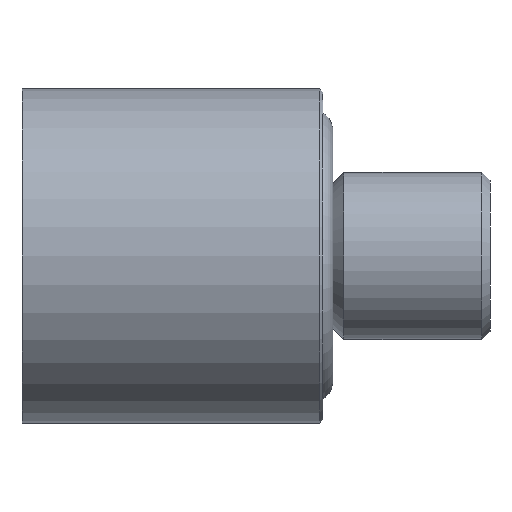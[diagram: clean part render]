
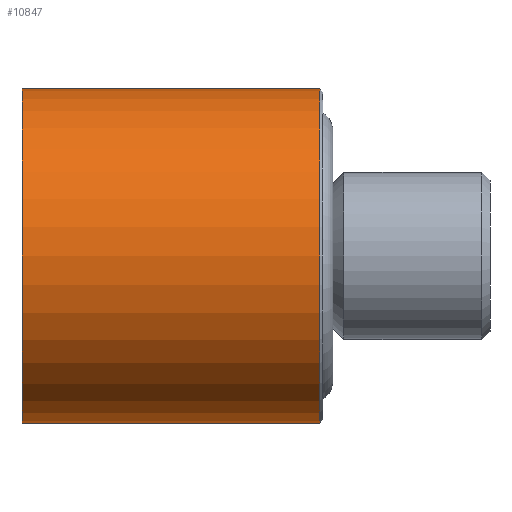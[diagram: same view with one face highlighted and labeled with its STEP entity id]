
A CAD part, left-side view. The second image highlights one B-rep face of the part: STEP entity #10847.
In plain terms, the highlighted cylindrical face has radius 10 mm (diameter 20 mm), a partial arc.
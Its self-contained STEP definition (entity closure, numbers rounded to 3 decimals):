
#763 = VERTEX_POINT ( 'NONE', #21763 ) ;
#1343 = ORIENTED_EDGE ( 'NONE', *, *, #13487, .F. ) ;
#1702 = AXIS2_PLACEMENT_3D ( 'NONE', #10851, #23638, #10659 ) ;
#3516 = DIRECTION ( 'NONE',  ( 0., 1., 0. ) ) ;
#4168 = EDGE_LOOP ( 'NONE', ( #16739, #1343, #23401, #12400 ) ) ;
#4882 = CARTESIAN_POINT ( 'NONE',  ( 0., 0., -10. ) ) ;
#6209 = EDGE_CURVE ( 'NONE', #763, #23693, #16365, .T. ) ;
#7497 = LINE ( 'NONE', #23189, #21931 ) ;
#7518 = DIRECTION ( 'NONE',  ( 0., 1., 0. ) ) ;
#9097 = DIRECTION ( 'NONE',  ( 0., 1., 0. ) ) ;
#9475 = DIRECTION ( 'NONE',  ( 0., 0., -1. ) ) ;
#10191 = CARTESIAN_POINT ( 'NONE',  ( 0., 18., 10. ) ) ;
#10659 = DIRECTION ( 'NONE',  ( 0., 0., 1. ) ) ;
#10847 = ADVANCED_FACE ( 'NONE', ( #25903 ), #13102, .T. ) ;
#10851 = CARTESIAN_POINT ( 'NONE',  ( 0., 0.2, 0. ) ) ;
#10906 = VERTEX_POINT ( 'NONE', #10191 ) ;
#12124 = AXIS2_PLACEMENT_3D ( 'NONE', #27314, #3516, #20816 ) ;
#12332 = CIRCLE ( 'NONE', #24925, 10. ) ;
#12400 = ORIENTED_EDGE ( 'NONE', *, *, #12538, .F. ) ;
#12538 = EDGE_CURVE ( 'NONE', #23693, #10906, #12332, .T. ) ;
#13102 = CYLINDRICAL_SURFACE ( 'NONE', #12124, 10. ) ;
#13487 = EDGE_CURVE ( 'NONE', #21383, #763, #18631, .T. ) ;
#16365 = LINE ( 'NONE', #4882, #27147 ) ;
#16739 = ORIENTED_EDGE ( 'NONE', *, *, #6209, .F. ) ;
#18486 = DIRECTION ( 'NONE',  ( 0., 1., 0. ) ) ;
#18631 = CIRCLE ( 'NONE', #1702, 10. ) ;
#18829 = CARTESIAN_POINT ( 'NONE',  ( 0., 0.2, 10. ) ) ;
#20471 = CARTESIAN_POINT ( 'NONE',  ( 0., 18., 0. ) ) ;
#20816 = DIRECTION ( 'NONE',  ( 0., 0., 1. ) ) ;
#20867 = EDGE_CURVE ( 'NONE', #21383, #10906, #7497, .T. ) ;
#21383 = VERTEX_POINT ( 'NONE', #18829 ) ;
#21763 = CARTESIAN_POINT ( 'NONE',  ( 0., 0.2, -10. ) ) ;
#21931 = VECTOR ( 'NONE', #18486, 1000. ) ;
#23189 = CARTESIAN_POINT ( 'NONE',  ( 0., 0., 10. ) ) ;
#23401 = ORIENTED_EDGE ( 'NONE', *, *, #20867, .T. ) ;
#23638 = DIRECTION ( 'NONE',  ( 0., -1., 0. ) ) ;
#23693 = VERTEX_POINT ( 'NONE', #27173 ) ;
#24925 = AXIS2_PLACEMENT_3D ( 'NONE', #20471, #7518, #9475 ) ;
#25903 = FACE_OUTER_BOUND ( 'NONE', #4168, .T. ) ;
#27147 = VECTOR ( 'NONE', #9097, 1000. ) ;
#27173 = CARTESIAN_POINT ( 'NONE',  ( 0., 18., -10. ) ) ;
#27314 = CARTESIAN_POINT ( 'NONE',  ( 0., 0., 0. ) ) ;
